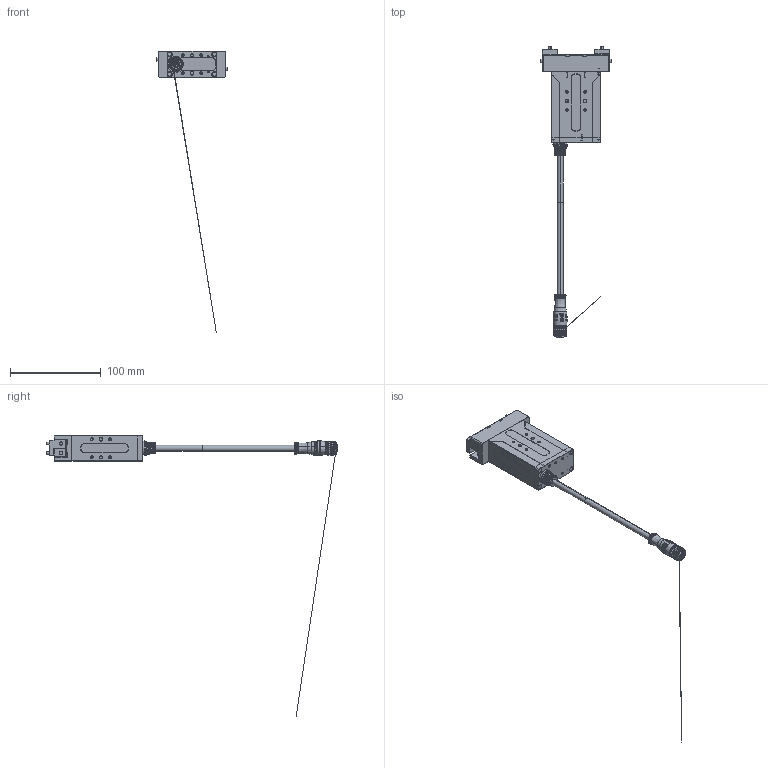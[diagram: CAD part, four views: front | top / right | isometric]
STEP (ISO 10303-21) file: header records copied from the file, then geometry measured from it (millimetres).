
FILE_DESCRIPTION (( 'STEP AP214' ), '1' );
FILE_NAME ('PGE-50-40-O-B潠眢耀倰.STEP', '2023-08-24T02:11:40', ( '' ), ( '' ), 'SwSTEP 2.0', 'SolidWorks 2020', '' );
FILE_SCHEMA (( 'AUTOMOTIVE_DESIGN' ));
Length unit declared in the file: millimetre
Products named in the file (3): PGE-50-40忒硌; PGE-50-40-O-B潠眢耀倰; 底出壳不加U型支架PGE-50-40-O-B
Assembly tree (3 placements, depth 2):
  PGE-50-40-O-B潠眢耀倰
    底出壳不加U型支架PGE-50-40-O-B
    PGE-50-40忒硌  x2
Bounding box: 78 x 320.3 x 310.57 mm (x, y, z)
Volume: 15613.3 mm3; surface area: 49133.5 mm2
Topology: 6 solids, 22 shells, 1582 faces, 3837 edges, 2388 vertices
Faces by surface type: plane 640, cylinder 373, cone 283, bspline 247, torus 38, sphere 1
Full cylindrical faces by diameter (mm): 11.1 x3
Entity records: 75796 total; most frequent: CARTESIAN_POINT 27124, ORIENTED_EDGE 7102, DIRECTION 6030, EDGE_CURVE 3555, VERTEX_POINT 2240, AXIS2_PLACEMENT_3D 2205, EDGE_LOOP 1637, LINE 1620
